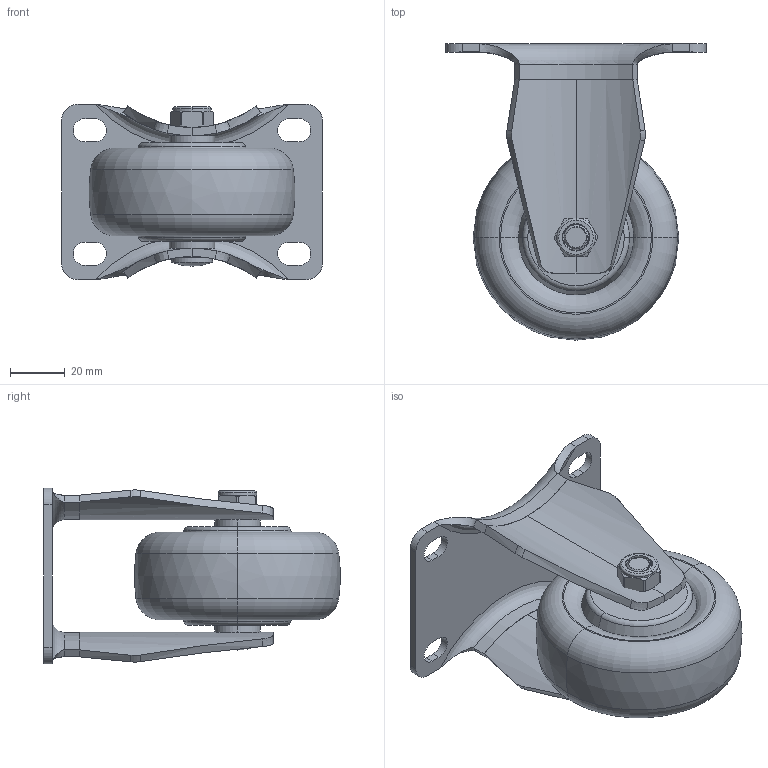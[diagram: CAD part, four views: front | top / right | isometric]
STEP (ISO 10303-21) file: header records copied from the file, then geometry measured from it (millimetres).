
FILE_DESCRIPTION((''),'2;1');
FILE_NAME('50103-503-86_ASM','2020-01-01T',('L'),(''),'PRO/ENGINEER BY PARAMETRIC TECHNOLOGY CORPORATION, 2010280','PRO/ENGINEER BY PARAMETRIC TECHNOLOGY CORPORATION, 2010280','');
FILE_SCHEMA(('CONFIG_CONTROL_DESIGN'));
Length unit declared in the file: millimetre
Products named in the file (5): 50103; 503-986; 570-33; 570-34; 50103-503-86_ASM
Assembly tree (4 placements, depth 2):
  50103-503-86_ASM
    50103
    503-986
    570-33
    570-34
Bounding box: 95 x 107.94 x 64 mm (x, y, z)
Volume: 174196.4 mm3; surface area: 44647.7 mm2
Topology: 6 solids, 6 shells, 201 faces, 496 edges, 307 vertices
Faces by surface type: cylinder 63, plane 51, bspline 45, cone 22, torus 18, sphere 2
Entity records: 10516 total; most frequent: CARTESIAN_POINT 5956, ORIENTED_EDGE 988, DIRECTION 822, EDGE_CURVE 494, AXIS2_PLACEMENT_3D 318, VERTEX_POINT 307, EDGE_LOOP 217, FACE_OUTER_BOUND 201
